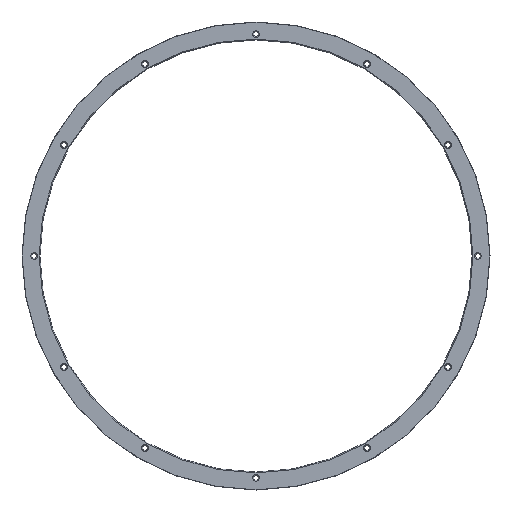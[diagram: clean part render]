
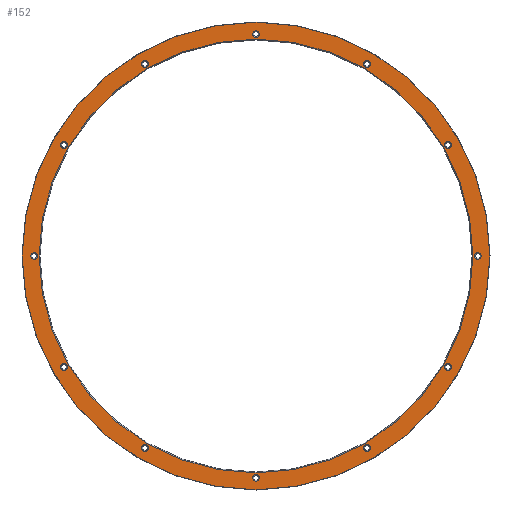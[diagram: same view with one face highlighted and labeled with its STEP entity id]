
A CAD part, front view. The second image highlights one B-rep face of the part: STEP entity #152.
In plain terms, the highlighted planar face has unit normal (0, -1, 0).
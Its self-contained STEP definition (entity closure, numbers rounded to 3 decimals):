
#152=ADVANCED_FACE('',(#548,#550,#552,#554,#556,#558,#560,#562,#564,#566,#568,#570,
#572,#574),#576,.F.);
#548=FACE_BOUND('',#549,.T.);
#549=EDGE_LOOP('',(#915));
#550=FACE_BOUND('',#551,.T.);
#551=EDGE_LOOP('',(#916));
#552=FACE_BOUND('',#553,.T.);
#553=EDGE_LOOP('',(#917));
#554=FACE_BOUND('',#555,.T.);
#555=EDGE_LOOP('',(#918));
#556=FACE_BOUND('',#557,.T.);
#557=EDGE_LOOP('',(#919));
#558=FACE_BOUND('',#559,.T.);
#559=EDGE_LOOP('',(#920));
#560=FACE_BOUND('',#561,.T.);
#561=EDGE_LOOP('',(#921));
#562=FACE_BOUND('',#563,.T.);
#563=EDGE_LOOP('',(#922));
#564=FACE_BOUND('',#565,.T.);
#565=EDGE_LOOP('',(#923));
#566=FACE_BOUND('',#567,.T.);
#567=EDGE_LOOP('',(#924));
#568=FACE_BOUND('',#569,.T.);
#569=EDGE_LOOP('',(#925));
#570=FACE_BOUND('',#571,.T.);
#571=EDGE_LOOP('',(#926));
#572=FACE_BOUND('',#573,.T.);
#573=EDGE_LOOP('',(#927));
#574=FACE_BOUND('',#575,.T.);
#575=EDGE_LOOP('',(#928));
#576=PLANE('',#577);
#577=AXIS2_PLACEMENT_3D('',#578,#579,#580);
#578=CARTESIAN_POINT('',(0.,0.,0.));
#579=DIRECTION('',(0.,1.,0.));
#580=DIRECTION('',(-1.,0.,0.));
#915=ORIENTED_EDGE('',*,*,#1027,.F.);
#916=ORIENTED_EDGE('',*,*,#1028,.T.);
#917=ORIENTED_EDGE('',*,*,#1029,.T.);
#918=ORIENTED_EDGE('',*,*,#1030,.T.);
#919=ORIENTED_EDGE('',*,*,#1031,.T.);
#920=ORIENTED_EDGE('',*,*,#1032,.T.);
#921=ORIENTED_EDGE('',*,*,#1033,.T.);
#922=ORIENTED_EDGE('',*,*,#1034,.T.);
#923=ORIENTED_EDGE('',*,*,#1035,.T.);
#924=ORIENTED_EDGE('',*,*,#1036,.T.);
#925=ORIENTED_EDGE('',*,*,#1037,.T.);
#926=ORIENTED_EDGE('',*,*,#1038,.T.);
#927=ORIENTED_EDGE('',*,*,#1039,.T.);
#928=ORIENTED_EDGE('',*,*,#1040,.T.);
#1027=EDGE_CURVE('',#1105,#1105,#1106,.T.);
#1028=EDGE_CURVE('',#1107,#1107,#1108,.T.);
#1029=EDGE_CURVE('',#1109,#1109,#1110,.F.);
#1030=EDGE_CURVE('',#1111,#1111,#1112,.F.);
#1031=EDGE_CURVE('',#1113,#1113,#1114,.F.);
#1032=EDGE_CURVE('',#1115,#1115,#1116,.F.);
#1033=EDGE_CURVE('',#1117,#1117,#1118,.F.);
#1034=EDGE_CURVE('',#1119,#1119,#1120,.F.);
#1035=EDGE_CURVE('',#1121,#1121,#1122,.F.);
#1036=EDGE_CURVE('',#1123,#1123,#1124,.F.);
#1037=EDGE_CURVE('',#1125,#1125,#1126,.F.);
#1038=EDGE_CURVE('',#1127,#1127,#1128,.F.);
#1039=EDGE_CURVE('',#1129,#1129,#1130,.F.);
#1040=EDGE_CURVE('',#1131,#1131,#1132,.F.);
#1105=VERTEX_POINT('',#1283);
#1106=CIRCLE('',#1284,243.5);
#1107=VERTEX_POINT('',#1288);
#1108=CIRCLE('',#1289,225.866);
#1109=VERTEX_POINT('',#1293);
#1110=CIRCLE('',#1294,3.459);
#1111=VERTEX_POINT('',#1298);
#1112=CIRCLE('',#1299,3.459);
#1113=VERTEX_POINT('',#1303);
#1114=CIRCLE('',#1304,3.459);
#1115=VERTEX_POINT('',#1308);
#1116=CIRCLE('',#1309,3.459);
#1117=VERTEX_POINT('',#1313);
#1118=CIRCLE('',#1314,3.459);
#1119=VERTEX_POINT('',#1318);
#1120=CIRCLE('',#1319,3.459);
#1121=VERTEX_POINT('',#1323);
#1122=CIRCLE('',#1324,3.459);
#1123=VERTEX_POINT('',#1328);
#1124=CIRCLE('',#1329,3.459);
#1125=VERTEX_POINT('',#1333);
#1126=CIRCLE('',#1334,3.459);
#1127=VERTEX_POINT('',#1338);
#1128=CIRCLE('',#1339,3.459);
#1129=VERTEX_POINT('',#1343);
#1130=CIRCLE('',#1344,3.459);
#1131=VERTEX_POINT('',#1348);
#1132=CIRCLE('',#1349,3.459);
#1283=CARTESIAN_POINT('',(-243.5,0.,0.));
#1284=AXIS2_PLACEMENT_3D('',#1285,#1286,#1287);
#1285=CARTESIAN_POINT('',(0.,0.,0.));
#1286=DIRECTION('',(0.,1.,0.));
#1287=DIRECTION('',(-1.,0.,0.));
#1288=CARTESIAN_POINT('',(-225.866,0.,0.));
#1289=AXIS2_PLACEMENT_3D('',#1290,#1291,#1292);
#1290=CARTESIAN_POINT('',(0.,0.,0.));
#1291=DIRECTION('',(0.,1.,0.));
#1292=DIRECTION('',(-1.,0.,0.));
#1293=CARTESIAN_POINT('',(201.781,0.,-112.505));
#1294=AXIS2_PLACEMENT_3D('',#1295,#1296,#1297);
#1295=CARTESIAN_POINT('',(200.052,0.,-115.5));
#1296=DIRECTION('',(0.,-1.,0.));
#1297=DIRECTION('',(0.5,0.,0.866));
#1298=CARTESIAN_POINT('',(198.323,0.,118.495));
#1299=AXIS2_PLACEMENT_3D('',#1300,#1301,#1302);
#1300=CARTESIAN_POINT('',(200.052,0.,115.5));
#1301=DIRECTION('',(0.,-1.,0.));
#1302=DIRECTION('',(-0.5,0.,0.866));
#1303=CARTESIAN_POINT('',(-3.459,0.,231.));
#1304=AXIS2_PLACEMENT_3D('',#1305,#1306,#1307);
#1305=CARTESIAN_POINT('',(0.,0.,231.));
#1306=DIRECTION('',(0.,-1.,0.));
#1307=DIRECTION('',(-1.,0.,0.));
#1308=CARTESIAN_POINT('',(-201.781,0.,112.505));
#1309=AXIS2_PLACEMENT_3D('',#1310,#1311,#1312);
#1310=CARTESIAN_POINT('',(-200.052,0.,115.5));
#1311=DIRECTION('',(0.,-1.,0.));
#1312=DIRECTION('',(-0.5,0.,-0.866));
#1313=CARTESIAN_POINT('',(-198.323,0.,-118.495));
#1314=AXIS2_PLACEMENT_3D('',#1315,#1316,#1317);
#1315=CARTESIAN_POINT('',(-200.052,0.,-115.5));
#1316=DIRECTION('',(0.,-1.,0.));
#1317=DIRECTION('',(0.5,0.,-0.866));
#1318=CARTESIAN_POINT('',(3.459,0.,-231.));
#1319=AXIS2_PLACEMENT_3D('',#1320,#1321,#1322);
#1320=CARTESIAN_POINT('',(0.,0.,-231.));
#1321=DIRECTION('',(0.,-1.,0.));
#1322=DIRECTION('',(1.,0.,0.));
#1323=CARTESIAN_POINT('',(-112.505,0.,-201.781));
#1324=AXIS2_PLACEMENT_3D('',#1325,#1326,#1327);
#1325=CARTESIAN_POINT('',(-115.5,0.,-200.052));
#1326=DIRECTION('',(0.,-1.,0.));
#1327=DIRECTION('',(0.866,0.,-0.5));
#1328=CARTESIAN_POINT('',(-231.,0.,-3.459));
#1329=AXIS2_PLACEMENT_3D('',#1330,#1331,#1332);
#1330=CARTESIAN_POINT('',(-231.,0.,0.));
#1331=DIRECTION('',(0.,-1.,0.));
#1332=DIRECTION('',(0.,0.,-1.));
#1333=CARTESIAN_POINT('',(-118.495,0.,198.323));
#1334=AXIS2_PLACEMENT_3D('',#1335,#1336,#1337);
#1335=CARTESIAN_POINT('',(-115.5,0.,200.052));
#1336=DIRECTION('',(0.,-1.,0.));
#1337=DIRECTION('',(-0.866,0.,-0.5));
#1338=CARTESIAN_POINT('',(112.505,0.,201.781));
#1339=AXIS2_PLACEMENT_3D('',#1340,#1341,#1342);
#1340=CARTESIAN_POINT('',(115.5,0.,200.052));
#1341=DIRECTION('',(0.,-1.,0.));
#1342=DIRECTION('',(-0.866,0.,0.5));
#1343=CARTESIAN_POINT('',(231.,0.,3.459));
#1344=AXIS2_PLACEMENT_3D('',#1345,#1346,#1347);
#1345=CARTESIAN_POINT('',(231.,0.,0.));
#1346=DIRECTION('',(0.,-1.,0.));
#1347=DIRECTION('',(0.,0.,1.));
#1348=CARTESIAN_POINT('',(118.495,0.,-198.323));
#1349=AXIS2_PLACEMENT_3D('',#1350,#1351,#1352);
#1350=CARTESIAN_POINT('',(115.5,0.,-200.052));
#1351=DIRECTION('',(0.,-1.,0.));
#1352=DIRECTION('',(0.866,0.,0.5));
